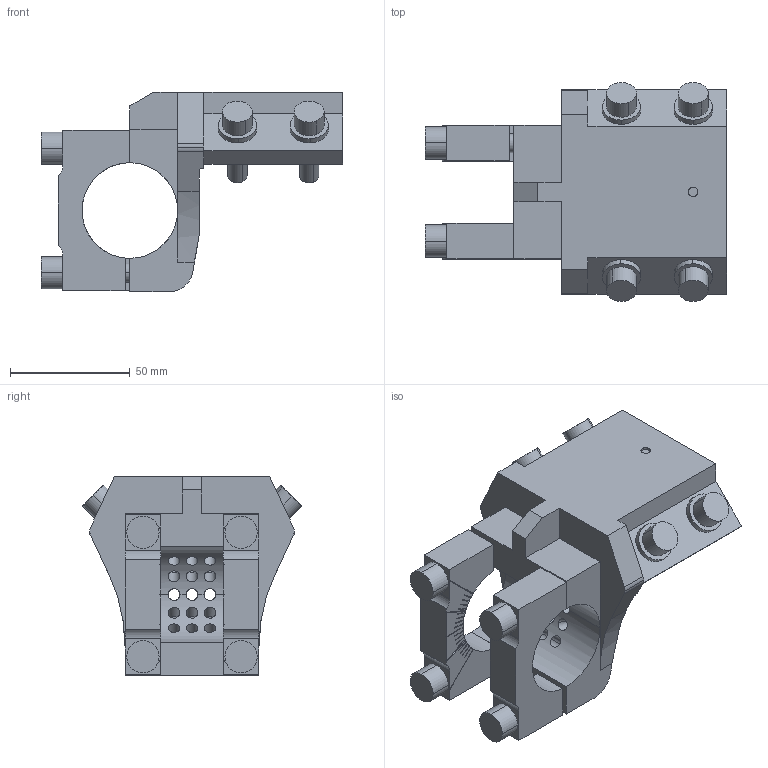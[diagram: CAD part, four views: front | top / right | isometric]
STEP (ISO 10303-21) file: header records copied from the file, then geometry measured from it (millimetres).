
FILE_DESCRIPTION(('STEP AP214'),'1');
FILE_NAME('EGT112_1720219_80RD40_T90.CATPart.stp','2015-09-14T13:08:37',('3D-Tool'),(' '),'Spatial InterOp 3D',' ',' ');
FILE_SCHEMA(('automotive_design'));
Length unit declared in the file: millimetre
Products named in the file (16): EGT112_1720219_80RD40_T90|EGT112_80RD40_T90|Bohrbearbeitung; EGT112_1720219_80RD40_T90|EGT206_SCHELLE_RD40_2|Assemble.70; EGT112_1720219_80RD40_T90|EGT206_SCHELLE_RD40_1|Assemble.71; 1; 2; 3; 4; EGT112_1720219_80RD40_T90|EGT_212_ZENTRIERSTIFT.2|Assemble.52; EGT112_1720219_80RD40_T90|SCHEIBE_DNL8SP_FA_NORDLOOK.1|Assemble.61; EGT112_1720219_80RD40_T90|SCHEIBE_DNL8SP_FA_NORDLOOK.2|Assemble.62; EGT112_1720219_80RD40_T90|SCHEIBE_DNL8SP_FA_NORDLOOK.3|Assemble.63; EGT112_1720219_80RD40_T90|SCHEIBE_DNL8SP_FA_NORDLOOK.4|Assemble.64; EGT112_1720219_80RD40_T90|DIN_EN_ISO_4762_ZYLINDERSCHRAUBE_M8X30.2|Split.3; EGT112_1720219_80RD40_T90|DIN_EN_ISO_4762_ZYLINDERSCHRAUBE_M8X30.3|Split.4; EGT112_1720219_80RD40_T90|DIN_EN_ISO_4762_ZYLINDERSCHRAUBE_M8X30.4|Split.5; EGT112_1720219_80RD40_T90|DIN_EN_ISO_4762_ZYLINDERSCHRAUBE_M8X30.1|Split.6
Bounding box: 126 x 91.57 x 83.5 mm (x, y, z)
Volume: 195321.1 mm3; surface area: 64943 mm2
Topology: 16 solids, 16 shells, 505 faces, 1312 edges, 816 vertices
Faces by surface type: plane 223, cylinder 212, cone 66, torus 4
Entity records: 21015 total; most frequent: CARTESIAN_POINT 4392, DIRECTION 2548, ORIENTED_EDGE 2544, EDGE_CURVE 1272, AXIS2_PLACEMENT_3D 934, VERTEX_POINT 816, LINE 680, VECTOR 680
